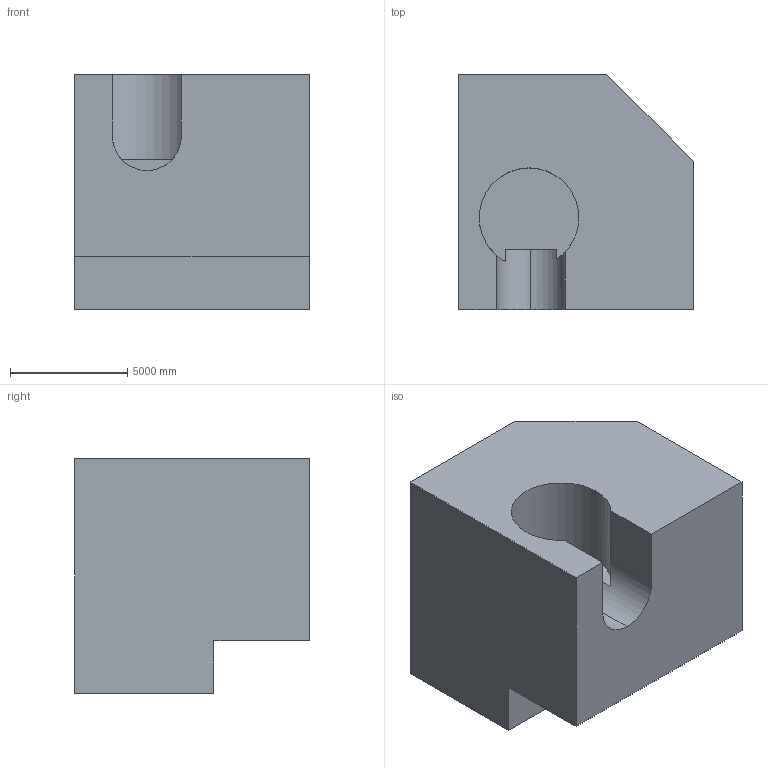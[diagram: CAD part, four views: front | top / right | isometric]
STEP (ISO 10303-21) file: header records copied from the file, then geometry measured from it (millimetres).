
FILE_DESCRIPTION (( 'STEP AP203' ), '1' );
FILE_NAME ('1333.STEP', '2022-08-18T13:49:41', ( 'user' ), ( '' ), 'SwSTEP 2.0', 'SolidWorks 2021', '' );
FILE_SCHEMA (( 'CONFIG_CONTROL_DESIGN' ));
Length unit declared in the file: centimetre
Products named in the file (1): 1333
Bounding box: 10000 x 10000 x 10000 mm (x, y, z)
Volume: 767698083451.2 mm3; surface area: 589045433.8 mm2
Topology: 1 solids, 1 shells, 18 faces, 48 edges, 32 vertices
Faces by surface type: plane 13, cylinder 5
Entity records: 719 total; most frequent: CARTESIAN_POINT 183, ORIENTED_EDGE 96, DIRECTION 94, EDGE_CURVE 48, LINE 36, VECTOR 36, VERTEX_POINT 32, AXIS2_PLACEMENT_3D 29
